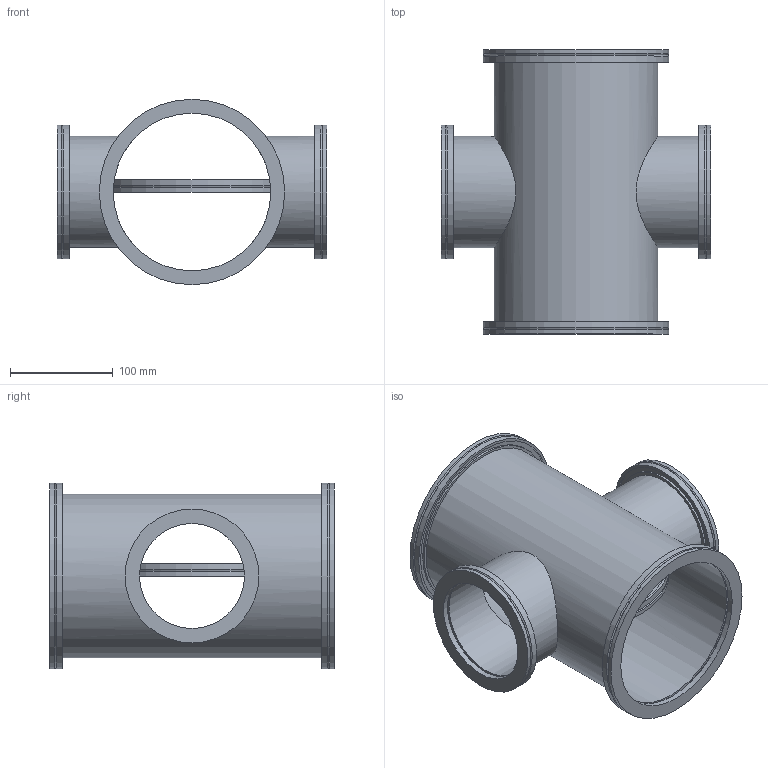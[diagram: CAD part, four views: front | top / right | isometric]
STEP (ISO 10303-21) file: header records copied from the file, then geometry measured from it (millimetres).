
FILE_DESCRIPTION( ( 'Unknown' ), '1' );
FILE_NAME( 'X:/Daten ( aktueller Bestand )/Projekte und Zeichnungen/Solid Edge/9 ISO-K Verzweigungen/ISO-K-Reduzierkreuzstücke/6143.stp', 'Unknown', ( 'Unknown' ), ( 'Unknown' ), 'XStep 1.0', 'Unknown', ' ' );
FILE_SCHEMA( ( 'automotive_design' ) );
Length unit declared in the file: millimetre
Products named in the file (4): Assem1; 6143-1; 6513; 6512
Bounding box: 262 x 276 x 180 mm (x, y, z)
Volume: 1239050.7 mm3; surface area: 741894.5 mm2
Topology: 8 solids, 8 shells, 98 faces, 174 edges, 112 vertices
Faces by surface type: cylinder 48, plane 38, cone 6, torus 6
Full cylindrical faces by diameter (mm): 102 x7, 108 x4, 108.5 x3, 115 x3, 125 x3, 130 x6, 153 x5, 159 x2, 160 x3, 165 x3, 175 x3, 180 x6
Entity records: 1503 total; most frequent: CARTESIAN_POINT 708, DIRECTION 152, AXIS2_PLACEMENT_3D 76, EDGE_LOOP 76, ORIENTED_EDGE 76, FACE_OUTER_BOUND 56, EDGE_CURVE 38, VERTEX_POINT 38
